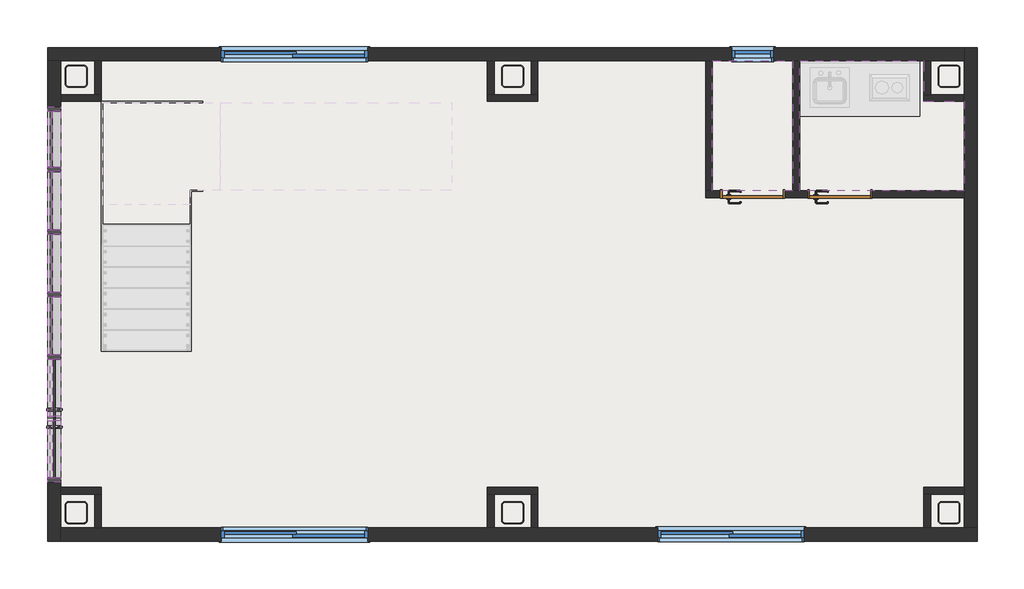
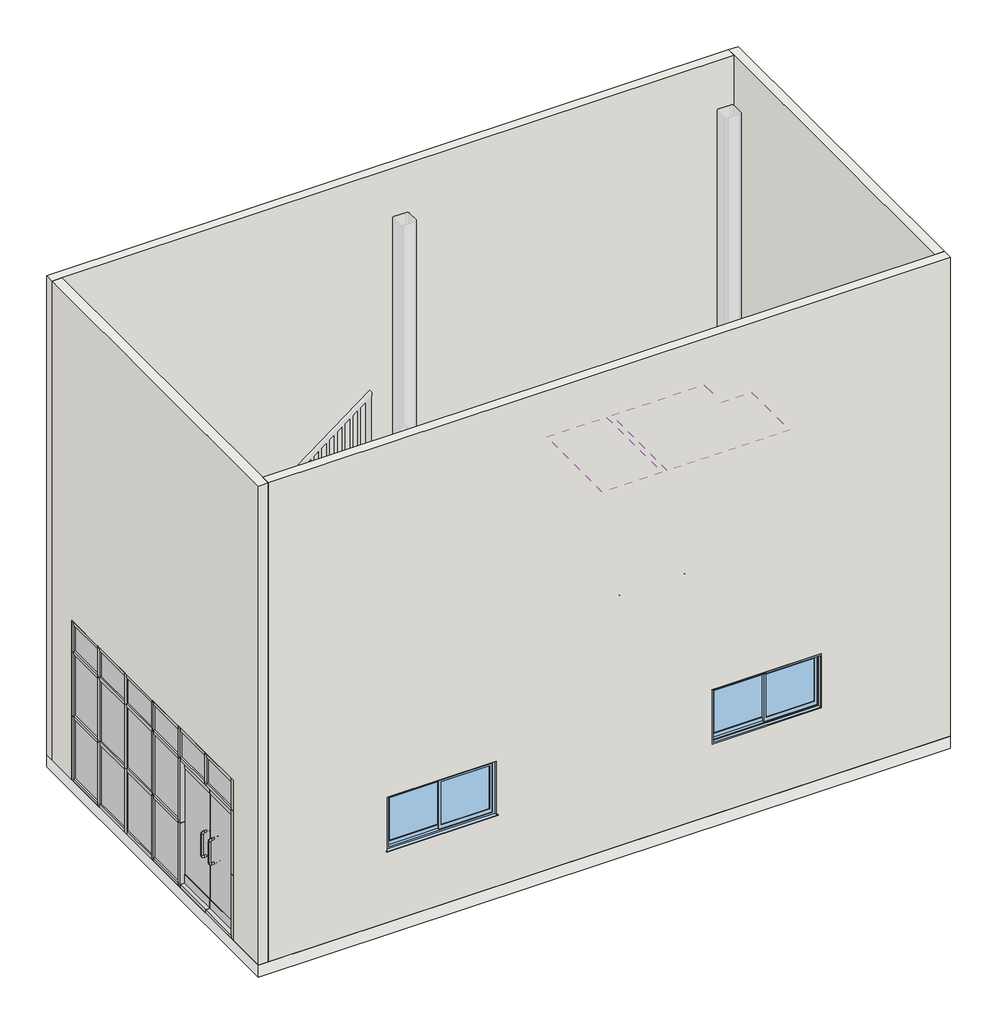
# One storey, part 1 of 2: 41 members, 21 walls, 15 plates, 4 windows, 2 columns, 2 coverings, 2 doors, 1 slab.
"""IFC4 building model written with IfcOpenShell, lengths in millimetres."""

from ifc_helpers import new_model, si_unit, frame, origin, origin_with_axes, place, context, project, spatial, polyline, outline, extrude, faceted_brep, transform, mapped, element, save
from components import hss250x250x12_d809ddac, w700h2000_2a992a34, member_50x150mm_a0e2e66f, member_50x150mm_a9c68ae1, member_50x150mm_62bde7b1, member_50x150mm_43fc7b63, member_50x150mm_86d21357, member_50x150mm_22f77a7a, member_50x150mm_8a69f4a4, member_50x150mm_b3666dbd, member_50x150mm_1a36453b, member_50x150mm_5157afd8, member_50x150mm_37d6beb1, member_50x150mm_f4543df4, plate_bb3d00ed, plate_81b017a3, plate_3e90128c, plate_3f01d40e, plate_8868ab24, plate_6b8e4332, plate_e66cd56a, plate_cf903d6a, w0400h0800_0b9f01bb, w1600h0800_d7cd19be

model = new_model("IFC4")

# Units and contexts
model_context = context("Model", 3, world=origin())
ifc_project = project(units=[si_unit("LENGTHUNIT", "METRE", prefix="MILLI")], contexts=[model_context])

# Site, building, storey
site = spatial("IfcSite", under=ifc_project)
building = spatial("IfcBuilding", under=site)
storey = spatial("IfcBuildingStorey", under=building, Name="1階", Elevation=200.0)

# Columns
placement = place(None, origin())
hss250x250x12_shape = hss250x250x12_d809ddac(model_context)
element("IfcColumn", 1, ObjectType="正方型鋼管-柱 : HSS250x250x12", at=placement, inside=storey, context=model_context, shape_type="MappedRepresentation", body=[
    mapped(hss250x250x12_shape, transform((-5047.3880564, -2413.9617267, 0.0), x_axis=(-1.0, 0.0, 0.0), y_axis=(0.0, -1.0, 0.0), z_axis=(0.0, 0.0, 1.0))),
])
element("IfcColumn", 2, ObjectType="正方型鋼管-柱 : HSS250x250x12", at=placement, inside=storey, context=model_context, shape_type="MappedRepresentation", body=[
    mapped(hss250x250x12_shape, transform((-47.3880564, -2413.9617267, 0.0), x_axis=(-1.0, 0.0, 0.0), y_axis=(0.0, -1.0, 0.0), z_axis=(0.0, 0.0, 1.0))),
])

# Coverings
element("IfcCovering", 3, ObjectType="グリッド 600x600mm", at=placement, inside=storey, context=model_context, shape_type="SweptSolid", body=[
    extrude(outline(polyline([(2242.1119436, 2761.0382733), (3163.1119436, 2761.0382733), (3163.1119436, 1275.5382733), (2242.1119436, 1275.5382733), (2242.1119436, 2761.0382733)])), frame((0.0, 0.0, 2800.0), z_axis=(0.0, 0.0, 1.0), x_axis=(1.0, 0.0, 0.0)), (0.0, 0.0, 1.0), 52.0),
])
element("IfcCovering", 4, ObjectType="グリッド 600x600mm", at=placement, inside=storey, context=model_context, shape_type="SweptSolid", body=[
    extrude(outline(polyline([(3242.1119436, 1275.5382733), (3242.1119436, 2761.0382733), (4663.1119436, 2761.0382733), (4663.1119436, 2296.5382733), (5127.6119436, 2296.5382733), (5127.6119436, 1275.5382733), (3242.1119436, 1275.5382733)])), frame((0.0, 0.0, 2800.0), z_axis=(0.0, 0.0, 1.0), x_axis=(1.0, 0.0, 0.0)), (0.0, 0.0, 1.0), 52.0),
])

# Doors
w700h2000_shape = w700h2000_2a992a34(model_context)
element("IfcDoor", 5, ObjectType="片開き : w700h2000", at=placement, inside=storey, context=model_context, shape_type="MappedRepresentation", body=[
    mapped(w700h2000_shape, transform((2702.6119436, 1236.0382733, 200.0), x_axis=(1.0, 0.0, 0.0), y_axis=(0.0, 1.0, 0.0), z_axis=(0.0, 0.0, 1.0))),
])
element("IfcDoor", 6, ObjectType="片開き : w700h2000", at=placement, inside=storey, context=model_context, shape_type="MappedRepresentation", body=[
    mapped(w700h2000_shape, transform((3702.6119436, 1236.0382733, 200.0), x_axis=(1.0, 0.0, 0.0), y_axis=(0.0, 1.0, 0.0), z_axis=(0.0, 0.0, 1.0))),
])

# Members
member_50x150mm_shape = member_50x150mm_a0e2e66f(model_context)
element("IfcMember", 7, ObjectType="長方形マリオン : 50x150mm", at=placement, inside=storey, context=model_context, shape_type="MappedRepresentation", body=[
    mapped(member_50x150mm_shape, transform((-5297.3880564, 2186.0382733, 2800.0), x_axis=(0.0, 0.0, 1.0), y_axis=(1.0, 0.0, 0.0), z_axis=(0.0, 1.0, 0.0))),
])
member_50x150mm_2_shape = member_50x150mm_a9c68ae1(model_context)
element("IfcMember", 8, ObjectType="長方形マリオン : 50x150mm", at=placement, inside=storey, context=model_context, shape_type="MappedRepresentation", body=[
    mapped(member_50x150mm_2_shape, transform((-5297.3880564, 86.0382733, 200.0), x_axis=(0.0, 1.0, 0.0), y_axis=(1.0, 0.0, 0.0), z_axis=(0.0, 0.0, -1.0))),
])
element("IfcMember", 9, ObjectType="長方形マリオン : 50x150mm", at=placement, inside=storey, context=model_context, shape_type="MappedRepresentation", body=[
    mapped(member_50x150mm_2_shape, transform((-5297.3880564, 1519.3716066, 200.0), x_axis=(0.0, 1.0, 0.0), y_axis=(1.0, 0.0, 0.0), z_axis=(0.0, 0.0, -1.0))),
])
element("IfcMember", 10, ObjectType="長方形マリオン : 50x150mm", at=placement, inside=storey, context=model_context, shape_type="MappedRepresentation", body=[
    mapped(member_50x150mm_2_shape, transform((-5297.3880564, 802.7049399, 200.0), x_axis=(0.0, 1.0, 0.0), y_axis=(1.0, 0.0, 0.0), z_axis=(0.0, 0.0, -1.0))),
])
element("IfcMember", 11, ObjectType="長方形マリオン : 50x150mm", at=placement, inside=storey, context=model_context, shape_type="MappedRepresentation", body=[
    mapped(member_50x150mm_2_shape, transform((-5297.3880564, -630.6283934, 200.0), x_axis=(0.0, 1.0, 0.0), y_axis=(1.0, 0.0, 0.0), z_axis=(0.0, 0.0, -1.0))),
])
member_50x150mm_3_shape = member_50x150mm_62bde7b1(model_context)
element("IfcMember", 12, ObjectType="長方形マリオン : 50x150mm", at=placement, inside=storey, context=model_context, shape_type="MappedRepresentation", body=[
    mapped(member_50x150mm_3_shape, transform((-5297.3880564, 2186.0382733, 2300.0), x_axis=(0.0, 0.0, 1.0), y_axis=(1.0, 0.0, 0.0), z_axis=(0.0, 1.0, 0.0))),
])
element("IfcMember", 13, ObjectType="長方形マリオン : 50x150mm", at=placement, inside=storey, context=model_context, shape_type="MappedRepresentation", body=[
    mapped(member_50x150mm_3_shape, transform((-5297.3880564, 2186.0382733, 1250.0), x_axis=(0.0, 0.0, 1.0), y_axis=(1.0, 0.0, 0.0), z_axis=(0.0, 1.0, 0.0))),
])
member_50x150mm_4_shape = member_50x150mm_43fc7b63(model_context)
element("IfcMember", 14, ObjectType="長方形マリオン : 50x150mm", at=placement, inside=storey, context=model_context, shape_type="MappedRepresentation", body=[
    mapped(member_50x150mm_4_shape, transform((-5297.3880564, 777.7049399, 2300.0), x_axis=(0.0, 0.0, 1.0), y_axis=(1.0, 0.0, 0.0), z_axis=(0.0, 1.0, 0.0))),
])
element("IfcMember", 15, ObjectType="長方形マリオン : 50x150mm", at=placement, inside=storey, context=model_context, shape_type="MappedRepresentation", body=[
    mapped(member_50x150mm_4_shape, transform((-5297.3880564, 1494.3716066, 2300.0), x_axis=(0.0, 0.0, 1.0), y_axis=(1.0, 0.0, 0.0), z_axis=(0.0, 1.0, 0.0))),
])
element("IfcMember", 16, ObjectType="長方形マリオン : 50x150mm", at=placement, inside=storey, context=model_context, shape_type="MappedRepresentation", body=[
    mapped(member_50x150mm_4_shape, transform((-5297.3880564, 61.0382733, 2300.0), x_axis=(0.0, 0.0, 1.0), y_axis=(1.0, 0.0, 0.0), z_axis=(0.0, 1.0, 0.0))),
])
element("IfcMember", 17, ObjectType="長方形マリオン : 50x150mm", at=placement, inside=storey, context=model_context, shape_type="MappedRepresentation", body=[
    mapped(member_50x150mm_4_shape, transform((-5297.3880564, 777.7049399, 1250.0), x_axis=(0.0, 0.0, 1.0), y_axis=(1.0, 0.0, 0.0), z_axis=(0.0, 1.0, 0.0))),
])
element("IfcMember", 18, ObjectType="長方形マリオン : 50x150mm", at=placement, inside=storey, context=model_context, shape_type="MappedRepresentation", body=[
    mapped(member_50x150mm_4_shape, transform((-5297.3880564, 1494.3716066, 1250.0), x_axis=(0.0, 0.0, 1.0), y_axis=(1.0, 0.0, 0.0), z_axis=(0.0, 1.0, 0.0))),
])
element("IfcMember", 19, ObjectType="長方形マリオン : 50x150mm", at=placement, inside=storey, context=model_context, shape_type="MappedRepresentation", body=[
    mapped(member_50x150mm_4_shape, transform((-5297.3880564, 61.0382733, 1250.0), x_axis=(0.0, 0.0, 1.0), y_axis=(1.0, 0.0, 0.0), z_axis=(0.0, 1.0, 0.0))),
])
member_50x150mm_5_shape = member_50x150mm_86d21357(model_context)
element("IfcMember", 20, ObjectType="長方形マリオン : 50x150mm", at=placement, inside=storey, context=model_context, shape_type="MappedRepresentation", body=[
    mapped(member_50x150mm_5_shape, transform((-5297.3880564, 111.0382733, 200.0), x_axis=(0.0, 0.0, -1.0), y_axis=(1.0, 0.0, 0.0), z_axis=(0.0, -1.0, 0.0))),
])
element("IfcMember", 21, ObjectType="長方形マリオン : 50x150mm", at=placement, inside=storey, context=model_context, shape_type="MappedRepresentation", body=[
    mapped(member_50x150mm_5_shape, transform((-5297.3880564, 827.7049399, 200.0), x_axis=(0.0, 0.0, -1.0), y_axis=(1.0, 0.0, 0.0), z_axis=(0.0, -1.0, 0.0))),
])
element("IfcMember", 22, ObjectType="長方形マリオン : 50x150mm", at=placement, inside=storey, context=model_context, shape_type="MappedRepresentation", body=[
    mapped(member_50x150mm_5_shape, transform((-5297.3880564, -605.6283934, 200.0), x_axis=(0.0, 0.0, -1.0), y_axis=(1.0, 0.0, 0.0), z_axis=(0.0, -1.0, 0.0))),
])
element("IfcMember", 23, ObjectType="長方形マリオン : 50x150mm", at=placement, inside=storey, context=model_context, shape_type="MappedRepresentation", body=[
    mapped(member_50x150mm_shape, transform((-5297.3880564, 1544.3716066, 200.0), x_axis=(0.0, 0.0, -1.0), y_axis=(1.0, 0.0, 0.0), z_axis=(0.0, -1.0, 0.0))),
])
element("IfcMember", 24, ObjectType="長方形マリオン : 50x150mm", at=placement, inside=storey, context=model_context, shape_type="MappedRepresentation", body=[
    mapped(member_50x150mm_5_shape, transform((-5297.3880564, 61.0382733, 2800.0), x_axis=(0.0, 0.0, 1.0), y_axis=(1.0, 0.0, 0.0), z_axis=(0.0, 1.0, 0.0))),
])
element("IfcMember", 25, ObjectType="長方形マリオン : 50x150mm", at=placement, inside=storey, context=model_context, shape_type="MappedRepresentation", body=[
    mapped(member_50x150mm_5_shape, transform((-5297.3880564, 1494.3716066, 2800.0), x_axis=(0.0, 0.0, 1.0), y_axis=(1.0, 0.0, 0.0), z_axis=(0.0, 1.0, 0.0))),
])
element("IfcMember", 26, ObjectType="長方形マリオン : 50x150mm", at=placement, inside=storey, context=model_context, shape_type="MappedRepresentation", body=[
    mapped(member_50x150mm_5_shape, transform((-5297.3880564, 777.7049399, 2800.0), x_axis=(0.0, 0.0, 1.0), y_axis=(1.0, 0.0, 0.0), z_axis=(0.0, 1.0, 0.0))),
])
member_50x150mm_6_shape = member_50x150mm_22f77a7a(model_context)
element("IfcMember", 27, ObjectType="長方形マリオン : 50x150mm", at=placement, inside=storey, context=model_context, shape_type="MappedRepresentation", body=[
    mapped(member_50x150mm_6_shape, transform((-5297.3880564, 86.0382733, 2300.0), x_axis=(0.0, 1.0, 0.0), y_axis=(1.0, 0.0, 0.0), z_axis=(0.0, 0.0, -1.0))),
])
element("IfcMember", 28, ObjectType="長方形マリオン : 50x150mm", at=placement, inside=storey, context=model_context, shape_type="MappedRepresentation", body=[
    mapped(member_50x150mm_6_shape, transform((-5297.3880564, 1519.3716066, 2300.0), x_axis=(0.0, 1.0, 0.0), y_axis=(1.0, 0.0, 0.0), z_axis=(0.0, 0.0, -1.0))),
])
element("IfcMember", 29, ObjectType="長方形マリオン : 50x150mm", at=placement, inside=storey, context=model_context, shape_type="MappedRepresentation", body=[
    mapped(member_50x150mm_6_shape, transform((-5297.3880564, 802.7049399, 2300.0), x_axis=(0.0, 1.0, 0.0), y_axis=(1.0, 0.0, 0.0), z_axis=(0.0, 0.0, -1.0))),
])
element("IfcMember", 30, ObjectType="長方形マリオン : 50x150mm", at=placement, inside=storey, context=model_context, shape_type="MappedRepresentation", body=[
    mapped(member_50x150mm_6_shape, transform((-5297.3880564, -630.6283934, 2300.0), x_axis=(0.0, 1.0, 0.0), y_axis=(1.0, 0.0, 0.0), z_axis=(0.0, 0.0, -1.0))),
])
element("IfcMember", 31, ObjectType="長方形マリオン : 50x150mm", at=placement, inside=storey, context=model_context, shape_type="MappedRepresentation", body=[
    mapped(member_50x150mm_2_shape, transform((-5297.3880564, 86.0382733, 1250.0), x_axis=(0.0, 1.0, 0.0), y_axis=(1.0, 0.0, 0.0), z_axis=(0.0, 0.0, -1.0))),
])
element("IfcMember", 32, ObjectType="長方形マリオン : 50x150mm", at=placement, inside=storey, context=model_context, shape_type="MappedRepresentation", body=[
    mapped(member_50x150mm_2_shape, transform((-5297.3880564, 1519.3716066, 1250.0), x_axis=(0.0, 1.0, 0.0), y_axis=(1.0, 0.0, 0.0), z_axis=(0.0, 0.0, -1.0))),
])
element("IfcMember", 33, ObjectType="長方形マリオン : 50x150mm", at=placement, inside=storey, context=model_context, shape_type="MappedRepresentation", body=[
    mapped(member_50x150mm_2_shape, transform((-5297.3880564, 802.7049399, 1250.0), x_axis=(0.0, 1.0, 0.0), y_axis=(1.0, 0.0, 0.0), z_axis=(0.0, 0.0, -1.0))),
])
element("IfcMember", 34, ObjectType="長方形マリオン : 50x150mm", at=placement, inside=storey, context=model_context, shape_type="MappedRepresentation", body=[
    mapped(member_50x150mm_2_shape, transform((-5297.3880564, -630.6283934, 1250.0), x_axis=(0.0, 1.0, 0.0), y_axis=(1.0, 0.0, 0.0), z_axis=(0.0, 0.0, -1.0))),
])
member_50x150mm_7_shape = member_50x150mm_8a69f4a4(model_context)
element("IfcMember", 35, ObjectType="長方形マリオン : 50x150mm", at=placement, inside=storey, context=model_context, shape_type="MappedRepresentation", body=[
    mapped(member_50x150mm_7_shape, transform((-5297.3880564, -1334.7950601, 2275.0), x_axis=(0.0, 1.0, 0.0), y_axis=(1.0, 0.0, 0.0), z_axis=(0.0, 0.0, -1.0))),
])
member_50x150mm_8_shape = member_50x150mm_b3666dbd(model_context)
element("IfcMember", 36, ObjectType="長方形マリオン : 50x150mm", at=placement, inside=storey, context=model_context, shape_type="MappedRepresentation", body=[
    mapped(member_50x150mm_8_shape, transform((-5297.3880564, -2063.9617267, 2800.0), x_axis=(0.0, -1.0, 0.0), y_axis=(1.0, 0.0, 0.0), z_axis=(0.0, 0.0, 1.0))),
])
member_50x150mm_9_shape = member_50x150mm_1a36453b(model_context)
element("IfcMember", 37, ObjectType="長方形マリオン : 50x150mm", at=placement, inside=storey, context=model_context, shape_type="MappedRepresentation", body=[
    mapped(member_50x150mm_9_shape, transform((-5297.3880564, 2236.0382733, 200.0), x_axis=(0.0, 1.0, 0.0), y_axis=(1.0, 0.0, 0.0), z_axis=(0.0, 0.0, -1.0))),
])
element("IfcMember", 38, ObjectType="長方形マリオン : 50x150mm", at=placement, inside=storey, context=model_context, shape_type="MappedRepresentation", body=[
    mapped(member_50x150mm_8_shape, transform((-5297.3880564, 2236.0382733, 2300.0), x_axis=(0.0, 1.0, 0.0), y_axis=(1.0, 0.0, 0.0), z_axis=(0.0, 0.0, -1.0))),
])
element("IfcMember", 39, ObjectType="長方形マリオン : 50x150mm", at=placement, inside=storey, context=model_context, shape_type="MappedRepresentation", body=[
    mapped(member_50x150mm_9_shape, transform((-5297.3880564, 2236.0382733, 1250.0), x_axis=(0.0, 1.0, 0.0), y_axis=(1.0, 0.0, 0.0), z_axis=(0.0, 0.0, -1.0))),
])
element("IfcMember", 40, ObjectType="長方形マリオン : 50x150mm", at=placement, inside=storey, context=model_context, shape_type="MappedRepresentation", body=[
    mapped(member_50x150mm_9_shape, transform((-5297.3880564, -2063.9617267, 2300.0), x_axis=(0.0, -1.0, 0.0), y_axis=(1.0, 0.0, 0.0), z_axis=(0.0, 0.0, 1.0))),
])
element("IfcMember", 41, ObjectType="長方形マリオン : 50x150mm", at=placement, inside=storey, context=model_context, shape_type="MappedRepresentation", body=[
    mapped(member_50x150mm_9_shape, transform((-5297.3880564, -2063.9617267, 1250.0), x_axis=(0.0, -1.0, 0.0), y_axis=(1.0, 0.0, 0.0), z_axis=(0.0, 0.0, 1.0))),
])
member_50x150mm_10_shape = member_50x150mm_5157afd8(model_context)
element("IfcMember", 42, ObjectType="長方形マリオン : 50x150mm", at=placement, inside=storey, context=model_context, shape_type="MappedRepresentation", body=[
    mapped(member_50x150mm_10_shape, transform((-5297.3880564, -2013.9617267, 200.0), x_axis=(0.0, 0.0, -1.0), y_axis=(1.0, 0.0, 0.0), z_axis=(0.0, -1.0, 0.0))),
])
member_50x150mm_11_shape = member_50x150mm_37d6beb1(model_context)
element("IfcMember", 43, ObjectType="長方形マリオン : 50x150mm", at=placement, inside=storey, context=model_context, shape_type="MappedRepresentation", body=[
    mapped(member_50x150mm_11_shape, transform((-5297.3880564, -1359.7950601, 2300.0), x_axis=(0.0, 0.0, 1.0), y_axis=(1.0, 0.0, 0.0), z_axis=(0.0, 1.0, 0.0))),
])
element("IfcMember", 44, ObjectType="長方形マリオン : 50x150mm", at=placement, inside=storey, context=model_context, shape_type="MappedRepresentation", body=[
    mapped(member_50x150mm_11_shape, transform((-5297.3880564, -655.6283934, 2300.0), x_axis=(0.0, 0.0, 1.0), y_axis=(1.0, 0.0, 0.0), z_axis=(0.0, 1.0, 0.0))),
])
element("IfcMember", 45, ObjectType="長方形マリオン : 50x150mm", at=placement, inside=storey, context=model_context, shape_type="MappedRepresentation", body=[
    mapped(member_50x150mm_10_shape, transform((-5297.3880564, -1334.7950601, 200.0), x_axis=(0.0, 0.0, -1.0), y_axis=(1.0, 0.0, 0.0), z_axis=(0.0, -1.0, 0.0))),
])
member_50x150mm_12_shape = member_50x150mm_f4543df4(model_context)
element("IfcMember", 46, ObjectType="長方形マリオン : 50x150mm", at=placement, inside=storey, context=model_context, shape_type="MappedRepresentation", body=[
    mapped(member_50x150mm_12_shape, transform((-5297.3880564, -655.6283934, 2800.0), x_axis=(0.0, 0.0, 1.0), y_axis=(1.0, 0.0, 0.0), z_axis=(0.0, 1.0, 0.0))),
])
element("IfcMember", 47, ObjectType="長方形マリオン : 50x150mm", at=placement, inside=storey, context=model_context, shape_type="MappedRepresentation", body=[
    mapped(member_50x150mm_12_shape, transform((-5297.3880564, -1359.7950601, 2800.0), x_axis=(0.0, 0.0, 1.0), y_axis=(1.0, 0.0, 0.0), z_axis=(0.0, 1.0, 0.0))),
])

# Plates
plate_shape = plate_bb3d00ed(model_context)
element("IfcPlate", 48, ObjectType="システム パネル1 : ガラス", at=placement, inside=storey, context=model_context, shape_type="MappedRepresentation", body=[
    mapped(plate_shape, transform((-5297.3880564, 444.3716066, 250.0), x_axis=(0.0, 1.0, 0.0), y_axis=(-1.0, 0.0, 0.0), z_axis=(0.0, 0.0, 1.0))),
])
element("IfcPlate", 49, ObjectType="システム パネル1 : ガラス", at=placement, inside=storey, context=model_context, shape_type="MappedRepresentation", body=[
    mapped(plate_shape, transform((-5297.3880564, 1161.0382733, 250.0), x_axis=(0.0, 1.0, 0.0), y_axis=(-1.0, 0.0, 0.0), z_axis=(0.0, 0.0, 1.0))),
])
element("IfcPlate", 50, ObjectType="システム パネル1 : ガラス", at=placement, inside=storey, context=model_context, shape_type="MappedRepresentation", body=[
    mapped(plate_shape, transform((-5297.3880564, -272.2950601, 250.0), x_axis=(0.0, 1.0, 0.0), y_axis=(-1.0, 0.0, 0.0), z_axis=(0.0, 0.0, 1.0))),
])
plate_2_shape = plate_81b017a3(model_context)
element("IfcPlate", 51, ObjectType="システム パネル1 : ガラス", at=placement, inside=storey, context=model_context, shape_type="MappedRepresentation", body=[
    mapped(plate_2_shape, transform((-5297.3880564, 1865.2049399, 250.0), x_axis=(0.0, 1.0, 0.0), y_axis=(-1.0, 0.0, 0.0), z_axis=(0.0, 0.0, 1.0))),
])
plate_3_shape = plate_3e90128c(model_context)
element("IfcPlate", 52, ObjectType="システム パネル1 : ガラス", at=placement, inside=storey, context=model_context, shape_type="MappedRepresentation", body=[
    mapped(plate_3_shape, transform((-5297.3880564, 1865.2049399, 2325.0), x_axis=(0.0, 1.0, 0.0), y_axis=(-1.0, 0.0, 0.0), z_axis=(0.0, 0.0, 1.0))),
])
plate_4_shape = plate_3f01d40e(model_context)
element("IfcPlate", 53, ObjectType="システム パネル1 : ガラス", at=placement, inside=storey, context=model_context, shape_type="MappedRepresentation", body=[
    mapped(plate_4_shape, transform((-5297.3880564, -272.2950601, 2325.0), x_axis=(0.0, 1.0, 0.0), y_axis=(-1.0, 0.0, 0.0), z_axis=(0.0, 0.0, 1.0))),
])
element("IfcPlate", 54, ObjectType="システム パネル1 : ガラス", at=placement, inside=storey, context=model_context, shape_type="MappedRepresentation", body=[
    mapped(plate_4_shape, transform((-5297.3880564, 444.3716066, 2325.0), x_axis=(0.0, 1.0, 0.0), y_axis=(-1.0, 0.0, 0.0), z_axis=(0.0, 0.0, 1.0))),
])
element("IfcPlate", 55, ObjectType="システム パネル1 : ガラス", at=placement, inside=storey, context=model_context, shape_type="MappedRepresentation", body=[
    mapped(plate_4_shape, transform((-5297.3880564, 1161.0382733, 2325.0), x_axis=(0.0, 1.0, 0.0), y_axis=(-1.0, 0.0, 0.0), z_axis=(0.0, 0.0, 1.0))),
])
plate_5_shape = plate_8868ab24(model_context)
element("IfcPlate", 56, ObjectType="システム パネル1 : ガラス", at=placement, inside=storey, context=model_context, shape_type="MappedRepresentation", body=[
    mapped(plate_5_shape, transform((-5297.3880564, -272.2950601, 1275.0), x_axis=(0.0, 1.0, 0.0), y_axis=(-1.0, 0.0, 0.0), z_axis=(0.0, 0.0, 1.0))),
])
element("IfcPlate", 57, ObjectType="システム パネル1 : ガラス", at=placement, inside=storey, context=model_context, shape_type="MappedRepresentation", body=[
    mapped(plate_5_shape, transform((-5297.3880564, 444.3716066, 1275.0), x_axis=(0.0, 1.0, 0.0), y_axis=(-1.0, 0.0, 0.0), z_axis=(0.0, 0.0, 1.0))),
])
element("IfcPlate", 58, ObjectType="システム パネル1 : ガラス", at=placement, inside=storey, context=model_context, shape_type="MappedRepresentation", body=[
    mapped(plate_5_shape, transform((-5297.3880564, 1161.0382733, 1275.0), x_axis=(0.0, 1.0, 0.0), y_axis=(-1.0, 0.0, 0.0), z_axis=(0.0, 0.0, 1.0))),
])
plate_6_shape = plate_6b8e4332(model_context)
element("IfcPlate", 59, ObjectType="システム パネル1 : ガラス", at=placement, inside=storey, context=model_context, shape_type="MappedRepresentation", body=[
    mapped(plate_6_shape, transform((-5297.3880564, 1865.2049399, 1275.0), x_axis=(0.0, 1.0, 0.0), y_axis=(-1.0, 0.0, 0.0), z_axis=(0.0, 0.0, 1.0))),
])
plate_7_shape = plate_e66cd56a(model_context)
element("IfcPlate", 60, ObjectType="両開き - ヒンジ2 : ガラス パネル", at=placement, inside=storey, context=model_context, shape_type="MappedRepresentation", body=[
    mapped(plate_7_shape, transform((-5297.3880564, -1334.7950601, 250.0), x_axis=(0.0, 1.0, 0.0), y_axis=(-1.0, 0.0, 0.0), z_axis=(0.0, 0.0, 1.0))),
])
plate_8_shape = plate_cf903d6a(model_context)
element("IfcPlate", 61, ObjectType="システム パネル1 : ガラス", at=placement, inside=storey, context=model_context, shape_type="MappedRepresentation", body=[
    mapped(plate_8_shape, transform((-5297.3880564, -1686.8783934, 2325.0), x_axis=(0.0, 1.0, 0.0), y_axis=(-1.0, 0.0, 0.0), z_axis=(0.0, 0.0, 1.0))),
])
element("IfcPlate", 62, ObjectType="システム パネル1 : ガラス", at=placement, inside=storey, context=model_context, shape_type="MappedRepresentation", body=[
    mapped(plate_8_shape, transform((-5297.3880564, -982.7117267, 2325.0), x_axis=(0.0, 1.0, 0.0), y_axis=(-1.0, 0.0, 0.0), z_axis=(0.0, 0.0, 1.0))),
])

# Slab
element("IfcSlab", 63, ObjectType="一般 200 mm", at=placement, inside=storey, context=model_context, shape_type="SweptSolid", body=[
    extrude(outline(polyline([(5277.6119436, 2911.0382733), (5277.6119436, -2738.9617267), (-5372.3880564, -2738.9617267), (-5372.3880564, 2911.0382733), (5277.6119436, 2911.0382733)])), origin_with_axes(), (0.0, 0.0, 1.0), 200.0),
])

# Walls
element("IfcWall", 64, ObjectType="標準-150mm", at=placement, inside=storey, context=model_context, shape_type="Brep", body=[
    faceted_brep([(-5372.3880564, 2761.0382733, 200.0), (-5222.3880564, 2761.0382733, 200.0), (-4836.8880564, 2761.0382733, 200.0), (-4757.8880564, 2761.0382733, 200.0), (-336.8880564, 2761.0382733, 200.0), (-257.8880564, 2761.0382733, 200.0), (163.1119436, 2761.0382733, 200.0), (242.1119436, 2761.0382733, 200.0), (2163.1119436, 2761.0382733, 200.0), (2242.1119436, 2761.0382733, 200.0), (3163.1119436, 2761.0382733, 200.0), (3242.1119436, 2761.0382733, 200.0), (4663.1119436, 2761.0382733, 200.0), (4742.1119436, 2761.0382733, 200.0), (5127.6119436, 2761.0382733, 200.0), (5127.6119436, 2761.0382733, 8000.0), (-5222.3880564, 2761.0382733, 8000.0), (-5372.3880564, 2761.0382733, 8000.0), (-1707.3880564, 2761.0382733, 2240.0), (-1707.3880564, 2761.0382733, 1360.0), (-3387.3880564, 2761.0382733, 1360.0), (-3387.3880564, 2761.0382733, 2240.0), (2942.6119436, 2761.0382733, 2240.0), (2942.6119436, 2761.0382733, 1360.0), (2462.6119436, 2761.0382733, 1360.0), (2462.6119436, 2761.0382733, 2240.0), (-5372.3880564, 2911.0382733, 200.0), (-5372.3880564, 2911.0382733, 8000.0), (5127.6119436, 2911.0382733, 8000.0), (5127.6119436, 2911.0382733, 200.0), (-1707.3880564, 2911.0382733, 2240.0), (-3387.3880564, 2911.0382733, 2240.0), (-3387.3880564, 2911.0382733, 1360.0), (-1707.3880564, 2911.0382733, 1360.0), (2942.6119436, 2911.0382733, 2240.0), (2462.6119436, 2911.0382733, 2240.0), (2462.6119436, 2911.0382733, 1360.0), (2942.6119436, 2911.0382733, 1360.0)], [[[0, 1, 2, 3, 4, 5, 6, 7, 8, 9, 10, 11, 12, 13, 14, 15, 16, 17], [18, 19, 20, 21], [22, 23, 24, 25]], [[26, 27, 28, 29], [30, 31, 32, 33], [34, 35, 36, 37]], [[14, 13, 12, 11, 10, 9, 8, 7, 6, 5, 4, 3, 2, 1, 0, 26, 29]], [[17, 16, 15, 28, 27]], [[0, 17, 27, 26]], [[15, 14, 29, 28]], [[19, 18, 30, 33]], [[20, 19, 33, 32]], [[21, 20, 32, 31]], [[18, 21, 31, 30]], [[23, 22, 34, 37]], [[24, 23, 37, 36]], [[25, 24, 36, 35]], [[22, 25, 35, 34]]]),
])
element("IfcWall", 65, ObjectType="標準-150mm", at=placement, inside=storey, context=model_context, shape_type="Brep", body=[
    faceted_brep([(-5222.3880564, 2761.0382733, 8000.0), (-5222.3880564, -2588.9617267, 8000.0), (-5222.3880564, -2738.9617267, 8000.0), (-5222.3880564, -2738.9617267, 200.0), (-5222.3880564, -2588.9617267, 200.0), (-5222.3880564, -2203.4617267, 200.0), (-5222.3880564, -2124.4617267, 200.0), (-5222.3880564, -2063.9617267, 200.0), (-5222.3880564, -2063.9617267, 2800.0), (-5222.3880564, 2236.0382733, 2800.0), (-5222.3880564, 2236.0382733, 200.0), (-5222.3880564, 2296.5382733, 200.0), (-5222.3880564, 2375.5382733, 200.0), (-5222.3880564, 2761.0382733, 200.0), (-5372.3880564, -2738.9617267, 8000.0), (-5372.3880564, 2761.0382733, 8000.0), (-5372.3880564, 2761.0382733, 200.0), (-5372.3880564, 2236.0382733, 200.0), (-5372.3880564, 2236.0382733, 2800.0), (-5372.3880564, -2063.9617267, 2800.0), (-5372.3880564, -2063.9617267, 200.0), (-5372.3880564, -2738.9617267, 200.0)], [[[0, 1, 2, 3, 4, 5, 6, 7, 8, 9, 10, 11, 12, 13]], [[14, 15, 16, 17, 18, 19, 20, 21]], [[3, 21, 20, 7, 6, 5, 4]], [[16, 13, 12, 11, 10, 17]], [[2, 1, 0, 15, 14]], [[3, 2, 14, 21]], [[0, 13, 16, 15]], [[19, 8, 7, 20]], [[8, 19, 18, 9]], [[9, 18, 17, 10]]]),
])
element("IfcWall", 66, ObjectType="標準-150mm", at=placement, inside=storey, context=model_context, shape_type="Brep", body=[
    faceted_brep([(5277.6119436, -2588.9617267, 200.0), (5127.6119436, -2588.9617267, 200.0), (4742.1119436, -2588.9617267, 200.0), (4663.1119436, -2588.9617267, 200.0), (242.1119436, -2588.9617267, 200.0), (163.1119436, -2588.9617267, 200.0), (-257.8880564, -2588.9617267, 200.0), (-336.8880564, -2588.9617267, 200.0), (-4757.8880564, -2588.9617267, 200.0), (-4836.8880564, -2588.9617267, 200.0), (-5222.3880564, -2588.9617267, 200.0), (-5222.3880564, -2588.9617267, 8000.0), (5127.6119436, -2588.9617267, 8000.0), (5277.6119436, -2588.9617267, 8000.0), (-3387.3880564, -2588.9617267, 2240.0), (-3387.3880564, -2588.9617267, 1360.0), (-1707.3880564, -2588.9617267, 1360.0), (-1707.3880564, -2588.9617267, 2240.0), (3292.6119436, -2588.9617267, 2240.0), (1612.6119436, -2588.9617267, 2240.0), (1612.6119436, -2588.9617267, 1360.0), (3292.6119436, -2588.9617267, 1360.0), (5277.6119436, -2738.9617267, 200.0), (5277.6119436, -2738.9617267, 8000.0), (-5222.3880564, -2738.9617267, 8000.0), (-5222.3880564, -2738.9617267, 200.0), (-3387.3880564, -2738.9617267, 2240.0), (-1707.3880564, -2738.9617267, 2240.0), (-1707.3880564, -2738.9617267, 1360.0), (-3387.3880564, -2738.9617267, 1360.0), (3292.6119436, -2738.9617267, 2240.0), (3292.6119436, -2738.9617267, 1360.0), (1612.6119436, -2738.9617267, 1360.0), (1612.6119436, -2738.9617267, 2240.0)], [[[0, 1, 2, 3, 4, 5, 6, 7, 8, 9, 10, 11, 12, 13], [14, 15, 16, 17], [18, 19, 20, 21]], [[22, 23, 24, 25], [26, 27, 28, 29], [30, 31, 32, 33]], [[10, 9, 8, 7, 6, 5, 4, 3, 2, 1, 0, 22, 25]], [[13, 12, 11, 24, 23]], [[0, 13, 23, 22]], [[11, 10, 25, 24]], [[15, 14, 26, 29]], [[16, 15, 29, 28]], [[17, 16, 28, 27]], [[14, 17, 27, 26]], [[31, 30, 18, 21]], [[32, 31, 21, 20]], [[33, 32, 20, 19]], [[30, 33, 19, 18]]]),
])
element("IfcWall", 67, ObjectType="標準-150mm", at=placement, inside=storey, context=model_context, shape_type="Brep", body=[
    faceted_brep([(5127.6119436, 2911.0382733, 200.0), (5127.6119436, 2761.0382733, 200.0), (5127.6119436, 2375.5382733, 200.0), (5127.6119436, 2296.5382733, 200.0), (5127.6119436, 1275.5382733, 200.0), (5127.6119436, 1196.5382733, 200.0), (5127.6119436, -2124.4617267, 200.0), (5127.6119436, -2203.4617267, 200.0), (5127.6119436, -2588.9617267, 200.0), (5127.6119436, -2588.9617267, 8000.0), (5127.6119436, 2761.0382733, 8000.0), (5127.6119436, 2911.0382733, 8000.0), (5277.6119436, 2911.0382733, 200.0), (5277.6119436, 2911.0382733, 8000.0), (5277.6119436, -2588.9617267, 8000.0), (5277.6119436, -2588.9617267, 200.0)], [[[0, 1, 2, 3, 4, 5, 6, 7, 8, 9, 10, 11]], [[12, 13, 14, 15]], [[8, 7, 6, 5, 4, 3, 2, 1, 0, 12, 15]], [[11, 10, 9, 14, 13]], [[0, 11, 13, 12]], [[9, 8, 15, 14]]]),
])
element("IfcWall", 68, ObjectType="内壁-79mm 間仕切り(1時間)", at=placement, inside=storey, context=model_context, shape_type="SweptSolid", body=[
    extrude(outline(polyline([(-4836.8880564, 2375.5382733), (-4836.8880564, 2761.0382733), (-4757.8880564, 2761.0382733), (-4757.8880564, 2375.5382733), (-4836.8880564, 2375.5382733)])), frame((0.0, 0.0, 200.0), z_axis=(0.0, 0.0, 1.0), x_axis=(1.0, 0.0, 0.0)), (0.0, 0.0, 1.0), 3450.0),
])
element("IfcWall", 69, ObjectType="内壁-79mm 間仕切り(1時間)", at=placement, inside=storey, context=model_context, shape_type="Brep", body=[
    faceted_brep([(-4757.8880564, 2375.5382733, 200.0), (-4836.8880564, 2375.5382733, 200.0), (-5222.3880564, 2375.5382733, 200.0), (-5222.3880564, 2375.5382733, 3650.0), (-4836.8880564, 2375.5382733, 3650.0), (-4757.8880564, 2375.5382733, 3650.0), (-4757.8880564, 2296.5382733, 200.0), (-4757.8880564, 2296.5382733, 3650.0), (-5222.3880564, 2296.5382733, 3650.0), (-5222.3880564, 2296.5382733, 200.0)], [[[0, 1, 2, 3, 4, 5]], [[6, 7, 8, 9]], [[2, 1, 0, 6, 9]], [[5, 4, 3, 8, 7]], [[0, 5, 7, 6]], [[3, 2, 9, 8]]]),
])
element("IfcWall", 70, ObjectType="内壁-79mm 間仕切り(1時間)", at=placement, inside=storey, context=model_context, shape_type="SweptSolid", body=[
    extrude(outline(polyline([(163.1119436, 2375.5382733), (163.1119436, 2761.0382733), (242.1119436, 2761.0382733), (242.1119436, 2375.5382733), (163.1119436, 2375.5382733)])), frame((0.0, 0.0, 200.0), z_axis=(0.0, 0.0, 1.0), x_axis=(1.0, 0.0, 0.0)), (0.0, 0.0, 1.0), 3450.0),
])
element("IfcWall", 71, ObjectType="内壁-79mm 間仕切り(1時間)", at=placement, inside=storey, context=model_context, shape_type="Brep", body=[
    faceted_brep([(242.1119436, 2375.5382733, 200.0), (163.1119436, 2375.5382733, 200.0), (-257.8880564, 2375.5382733, 200.0), (-336.8880564, 2375.5382733, 200.0), (-336.8880564, 2375.5382733, 3650.0), (-257.8880564, 2375.5382733, 3650.0), (163.1119436, 2375.5382733, 3650.0), (242.1119436, 2375.5382733, 3650.0), (242.1119436, 2296.5382733, 200.0), (242.1119436, 2296.5382733, 3650.0), (-336.8880564, 2296.5382733, 3650.0), (-336.8880564, 2296.5382733, 200.0)], [[[0, 1, 2, 3, 4, 5, 6, 7]], [[8, 9, 10, 11]], [[3, 2, 1, 0, 8, 11]], [[7, 6, 5, 4, 10, 9]], [[0, 7, 9, 8]], [[4, 3, 11, 10]]]),
])
element("IfcWall", 72, ObjectType="内壁-79mm 間仕切り(1時間)", at=placement, inside=storey, context=model_context, shape_type="SweptSolid", body=[
    extrude(outline(polyline([(-257.8880564, 2761.0382733), (-257.8880564, 2375.5382733), (-336.8880564, 2375.5382733), (-336.8880564, 2761.0382733), (-257.8880564, 2761.0382733)])), frame((0.0, 0.0, 200.0), z_axis=(0.0, 0.0, 1.0), x_axis=(1.0, 0.0, 0.0)), (0.0, 0.0, 1.0), 3450.0),
])
element("IfcWall", 73, ObjectType="内壁-79mm 間仕切り(1時間)", at=placement, inside=storey, context=model_context, shape_type="SweptSolid", body=[
    extrude(outline(polyline([(4663.1119436, 2375.5382733), (4663.1119436, 2761.0382733), (4742.1119436, 2761.0382733), (4742.1119436, 2375.5382733), (4663.1119436, 2375.5382733)])), frame((0.0, 0.0, 200.0), z_axis=(0.0, 0.0, 1.0), x_axis=(1.0, 0.0, 0.0)), (0.0, 0.0, 1.0), 3450.0),
])
element("IfcWall", 74, ObjectType="内壁-79mm 間仕切り(1時間)", at=placement, inside=storey, context=model_context, shape_type="Brep", body=[
    faceted_brep([(4663.1119436, 2296.5382733, 200.0), (5127.6119436, 2296.5382733, 200.0), (5127.6119436, 2296.5382733, 3650.0), (4663.1119436, 2296.5382733, 3650.0), (4663.1119436, 2375.5382733, 200.0), (4663.1119436, 2375.5382733, 3650.0), (4742.1119436, 2375.5382733, 3650.0), (5127.6119436, 2375.5382733, 3650.0), (5127.6119436, 2375.5382733, 200.0), (4742.1119436, 2375.5382733, 200.0)], [[[0, 1, 2, 3]], [[4, 5, 6, 7, 8, 9]], [[1, 0, 4, 9, 8]], [[3, 2, 7, 6, 5]], [[0, 3, 5, 4]], [[2, 1, 8, 7]]]),
])
element("IfcWall", 75, ObjectType="内壁-79mm 間仕切り(1時間)", at=placement, inside=storey, context=model_context, shape_type="SweptSolid", body=[
    extrude(outline(polyline([(-4757.8880564, -2203.4617267), (-4757.8880564, -2588.9617267), (-4836.8880564, -2588.9617267), (-4836.8880564, -2203.4617267), (-4757.8880564, -2203.4617267)])), frame((0.0, 0.0, 200.0), z_axis=(0.0, 0.0, 1.0), x_axis=(1.0, 0.0, 0.0)), (0.0, 0.0, 1.0), 3450.0),
])
element("IfcWall", 76, ObjectType="内壁-79mm 間仕切り(1時間)", at=placement, inside=storey, context=model_context, shape_type="Brep", body=[
    faceted_brep([(-4757.8880564, -2124.4617267, 200.0), (-5222.3880564, -2124.4617267, 200.0), (-5222.3880564, -2124.4617267, 3650.0), (-4757.8880564, -2124.4617267, 3650.0), (-4757.8880564, -2203.4617267, 200.0), (-4757.8880564, -2203.4617267, 3650.0), (-4836.8880564, -2203.4617267, 3650.0), (-5222.3880564, -2203.4617267, 3650.0), (-5222.3880564, -2203.4617267, 200.0), (-4836.8880564, -2203.4617267, 200.0)], [[[0, 1, 2, 3]], [[4, 5, 6, 7, 8, 9]], [[1, 0, 4, 9, 8]], [[3, 2, 7, 6, 5]], [[0, 3, 5, 4]], [[2, 1, 8, 7]]]),
])
element("IfcWall", 77, ObjectType="内壁-79mm 間仕切り(1時間)", at=placement, inside=storey, context=model_context, shape_type="SweptSolid", body=[
    extrude(outline(polyline([(242.1119436, -2203.4617267), (242.1119436, -2588.9617267), (163.1119436, -2588.9617267), (163.1119436, -2203.4617267), (242.1119436, -2203.4617267)])), frame((0.0, 0.0, 200.0), z_axis=(0.0, 0.0, 1.0), x_axis=(1.0, 0.0, 0.0)), (0.0, 0.0, 1.0), 3450.0),
])
element("IfcWall", 78, ObjectType="内壁-79mm 間仕切り(1時間)", at=placement, inside=storey, context=model_context, shape_type="Brep", body=[
    faceted_brep([(242.1119436, -2124.4617267, 200.0), (-336.8880564, -2124.4617267, 200.0), (-336.8880564, -2124.4617267, 3650.0), (242.1119436, -2124.4617267, 3650.0), (242.1119436, -2203.4617267, 200.0), (242.1119436, -2203.4617267, 3650.0), (163.1119436, -2203.4617267, 3650.0), (-257.8880564, -2203.4617267, 3650.0), (-336.8880564, -2203.4617267, 3650.0), (-336.8880564, -2203.4617267, 200.0), (-257.8880564, -2203.4617267, 200.0), (163.1119436, -2203.4617267, 200.0)], [[[0, 1, 2, 3]], [[4, 5, 6, 7, 8, 9, 10, 11]], [[1, 0, 4, 11, 10, 9]], [[3, 2, 8, 7, 6, 5]], [[0, 3, 5, 4]], [[2, 1, 9, 8]]]),
])
element("IfcWall", 79, ObjectType="内壁-79mm 間仕切り(1時間)", at=placement, inside=storey, context=model_context, shape_type="SweptSolid", body=[
    extrude(outline(polyline([(-336.8880564, -2588.9617267), (-336.8880564, -2203.4617267), (-257.8880564, -2203.4617267), (-257.8880564, -2588.9617267), (-336.8880564, -2588.9617267)])), frame((0.0, 0.0, 200.0), z_axis=(0.0, 0.0, 1.0), x_axis=(1.0, 0.0, 0.0)), (0.0, 0.0, 1.0), 3450.0),
])
element("IfcWall", 80, ObjectType="内壁-79mm 間仕切り(1時間)", at=placement, inside=storey, context=model_context, shape_type="SweptSolid", body=[
    extrude(outline(polyline([(4742.1119436, -2203.4617267), (4742.1119436, -2588.9617267), (4663.1119436, -2588.9617267), (4663.1119436, -2203.4617267), (4742.1119436, -2203.4617267)])), frame((0.0, 0.0, 200.0), z_axis=(0.0, 0.0, 1.0), x_axis=(1.0, 0.0, 0.0)), (0.0, 0.0, 1.0), 3450.0),
])
element("IfcWall", 81, ObjectType="内壁-79mm 間仕切り(1時間)", at=placement, inside=storey, context=model_context, shape_type="Brep", body=[
    faceted_brep([(4663.1119436, -2203.4617267, 200.0), (4742.1119436, -2203.4617267, 200.0), (5127.6119436, -2203.4617267, 200.0), (5127.6119436, -2203.4617267, 3650.0), (4742.1119436, -2203.4617267, 3650.0), (4663.1119436, -2203.4617267, 3650.0), (4663.1119436, -2124.4617267, 200.0), (4663.1119436, -2124.4617267, 3650.0), (5127.6119436, -2124.4617267, 3650.0), (5127.6119436, -2124.4617267, 200.0)], [[[0, 1, 2, 3, 4, 5]], [[6, 7, 8, 9]], [[2, 1, 0, 6, 9]], [[5, 4, 3, 8, 7]], [[0, 5, 7, 6]], [[3, 2, 9, 8]]]),
])
element("IfcWall", 82, ObjectType="内壁-79mm 間仕切り(1時間)", at=placement, inside=storey, context=model_context, shape_type="Brep", body=[
    faceted_brep([(3332.6119436, 1275.5382733, 2220.0), (3332.6119436, 1275.5382733, 200.0), (3242.1119436, 1275.5382733, 200.0), (3163.1119436, 1275.5382733, 200.0), (3072.6119436, 1275.5382733, 200.0), (3072.6119436, 1275.5382733, 2220.0), (2332.6119436, 1275.5382733, 2220.0), (2332.6119436, 1275.5382733, 200.0), (2242.1119436, 1275.5382733, 200.0), (2163.1119436, 1275.5382733, 200.0), (2163.1119436, 1275.5382733, 3650.0), (2242.1119436, 1275.5382733, 3650.0), (3163.1119436, 1275.5382733, 3650.0), (3242.1119436, 1275.5382733, 3650.0), (5127.6119436, 1275.5382733, 3650.0), (5127.6119436, 1275.5382733, 200.0), (4072.6119436, 1275.5382733, 200.0), (4072.6119436, 1275.5382733, 2220.0), (3072.6119436, 1196.5382733, 200.0), (3332.6119436, 1196.5382733, 200.0), (3332.6119436, 1196.5382733, 2220.0), (4072.6119436, 1196.5382733, 2220.0), (4072.6119436, 1196.5382733, 200.0), (5127.6119436, 1196.5382733, 200.0), (5127.6119436, 1196.5382733, 3650.0), (2163.1119436, 1196.5382733, 3650.0), (2163.1119436, 1196.5382733, 200.0), (2332.6119436, 1196.5382733, 200.0), (2332.6119436, 1196.5382733, 2220.0), (3072.6119436, 1196.5382733, 2220.0)], [[[0, 1, 2, 3, 4, 5, 6, 7, 8, 9, 10, 11, 12, 13, 14, 15, 16, 17]], [[18, 19, 20, 21, 22, 23, 24, 25, 26, 27, 28, 29]], [[9, 8, 7, 27, 26]], [[16, 15, 23, 22]], [[4, 3, 2, 1, 19, 18]], [[14, 13, 12, 11, 10, 25, 24]], [[15, 14, 24, 23]], [[10, 9, 26, 25]], [[18, 29, 5, 4]], [[28, 27, 7, 6]], [[29, 28, 6, 5]], [[22, 21, 17, 16]], [[20, 19, 1, 0]], [[21, 20, 0, 17]]]),
])
element("IfcWall", 83, ObjectType="内壁-79mm 間仕切り(1時間)", at=placement, inside=storey, context=model_context, shape_type="SweptSolid", body=[
    extrude(outline(polyline([(2242.1119436, 2761.0382733), (2242.1119436, 1275.5382733), (2163.1119436, 1275.5382733), (2163.1119436, 2761.0382733), (2242.1119436, 2761.0382733)])), frame((0.0, 0.0, 200.0), z_axis=(0.0, 0.0, 1.0), x_axis=(1.0, 0.0, 0.0)), (0.0, 0.0, 1.0), 3450.0),
])
element("IfcWall", 84, ObjectType="内壁-79mm 間仕切り(1時間)", at=placement, inside=storey, context=model_context, shape_type="SweptSolid", body=[
    extrude(outline(polyline([(3163.1119436, 1275.5382733), (3163.1119436, 2761.0382733), (3242.1119436, 2761.0382733), (3242.1119436, 1275.5382733), (3163.1119436, 1275.5382733)])), frame((0.0, 0.0, 200.0), z_axis=(0.0, 0.0, 1.0), x_axis=(1.0, 0.0, 0.0)), (0.0, 0.0, 1.0), 3450.0),
])

# Windows
w0400h0800_shape = w0400h0800_0b9f01bb(model_context)
element("IfcWindow", 85, ObjectType="縦すべり窓 : w0400h0800", at=placement, inside=storey, context=model_context, shape_type="MappedRepresentation", body=[
    mapped(w0400h0800_shape, transform((2702.6119436, 2836.0382733, 200.0), x_axis=(1.0, 0.0, 0.0), y_axis=(0.0, 1.0, 0.0), z_axis=(0.0, 0.0, 1.0))),
])
w1600h0800_shape = w1600h0800_d7cd19be(model_context)
element("IfcWindow", 86, ObjectType="引違い腰窓_2枚 : w1600h0800", at=placement, inside=storey, context=model_context, shape_type="MappedRepresentation", body=[
    mapped(w1600h0800_shape, transform((-2547.3880564, -2663.9617267, 200.0), x_axis=(-1.0, 0.0, 0.0), y_axis=(0.0, -1.0, 0.0), z_axis=(0.0, 0.0, 1.0))),
])
element("IfcWindow", 87, ObjectType="引違い腰窓_2枚 : w1600h0800", at=placement, inside=storey, context=model_context, shape_type="MappedRepresentation", body=[
    mapped(w1600h0800_shape, transform((2452.6119436, -2663.9617267, 200.0), x_axis=(1.0, 0.0, 0.0), y_axis=(0.0, 1.0, 0.0), z_axis=(0.0, 0.0, 1.0))),
])
element("IfcWindow", 88, ObjectType="引違い腰窓_2枚 : w1600h0800", at=placement, inside=storey, context=model_context, shape_type="MappedRepresentation", body=[
    mapped(w1600h0800_shape, transform((-2547.3880564, 2836.0382733, 200.0), x_axis=(1.0, 0.0, 0.0), y_axis=(0.0, 1.0, 0.0), z_axis=(0.0, 0.0, 1.0))),
])

save(model, "model.ifc")
